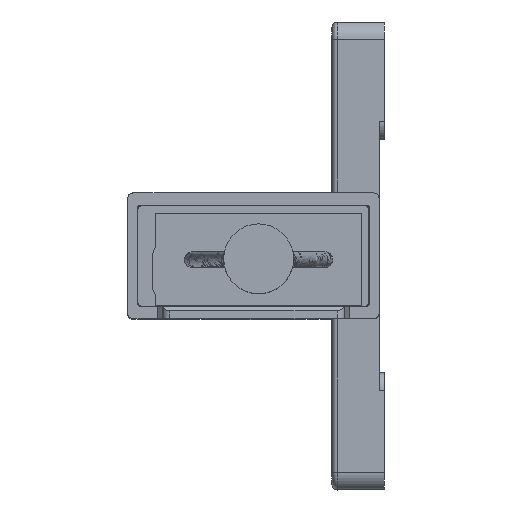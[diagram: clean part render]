
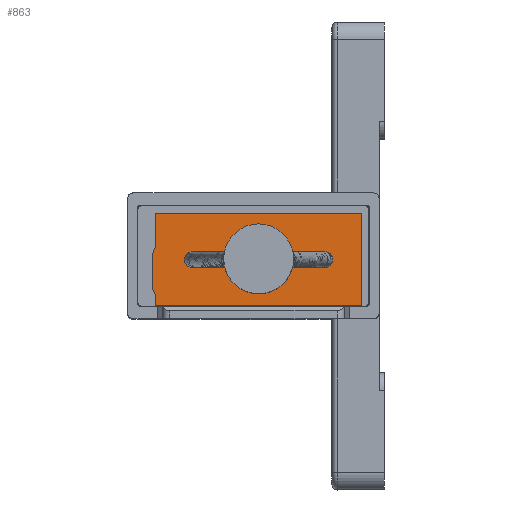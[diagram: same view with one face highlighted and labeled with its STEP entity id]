
A CAD part, top view. The second image highlights one B-rep face of the part: STEP entity #863.
In plain terms, the highlighted planar face has unit normal (0, 0, 1).
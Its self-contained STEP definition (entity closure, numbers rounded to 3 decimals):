
#211=(
BOUNDED_CURVE()
B_SPLINE_CURVE(3,(#16818,#16819,#16820,#16821,#16822,#16823,#16824),
 .UNSPECIFIED.,.T.,.F.)
B_SPLINE_CURVE_WITH_KNOTS((1,3,3,3,1),(-0.5,0.,0.5,1.,1.5),
 .UNSPECIFIED.)
CURVE()
GEOMETRIC_REPRESENTATION_ITEM()
RATIONAL_B_SPLINE_CURVE((1.,0.333,0.333,1.,0.333,
0.333,1.))
REPRESENTATION_ITEM('')
);
#212=(
BOUNDED_CURVE()
B_SPLINE_CURVE(3,(#16844,#16845,#16846,#16847,#16848,#16849,#16850),
 .UNSPECIFIED.,.T.,.F.)
B_SPLINE_CURVE_WITH_KNOTS((1,3,3,3,1),(-0.5,0.,0.5,1.,1.5),
 .UNSPECIFIED.)
CURVE()
GEOMETRIC_REPRESENTATION_ITEM()
RATIONAL_B_SPLINE_CURVE((1.,0.333,0.333,1.,0.333,
0.333,1.))
REPRESENTATION_ITEM('')
);
#213=(
BOUNDED_CURVE()
B_SPLINE_CURVE(3,(#16852,#16853,#16854,#16855,#16856,#16857,#16858),
 .UNSPECIFIED.,.T.,.F.)
B_SPLINE_CURVE_WITH_KNOTS((1,3,3,3,1),(-0.5,0.,0.5,1.,1.5),
 .UNSPECIFIED.)
CURVE()
GEOMETRIC_REPRESENTATION_ITEM()
RATIONAL_B_SPLINE_CURVE((1.,0.333,0.333,1.,0.333,
0.333,1.))
REPRESENTATION_ITEM('')
);
#390=CIRCLE('',#12247,0.45);
#596=FACE_BOUND('',#2564,.T.);
#597=FACE_BOUND('',#2565,.T.);
#598=FACE_BOUND('',#2566,.T.);
#599=FACE_BOUND('',#2567,.T.);
#600=FACE_BOUND('',#2568,.T.);
#863=ADVANCED_FACE('',(#596,#597,#598,#599,#600),#1461,.T.);
#1461=PLANE('',#12248);
#2564=EDGE_LOOP('',(#3963));
#2565=EDGE_LOOP('',(#3964));
#2566=EDGE_LOOP('',(#3965,#3966,#3967,#3968,#3969,#3970,#3971,#3972));
#2567=EDGE_LOOP('',(#3973));
#2568=EDGE_LOOP('',(#3974));
#3963=ORIENTED_EDGE('',*,*,#8025,.F.);
#3964=ORIENTED_EDGE('',*,*,#8026,.F.);
#3965=ORIENTED_EDGE('',*,*,#8027,.F.);
#3966=ORIENTED_EDGE('',*,*,#8028,.F.);
#3967=ORIENTED_EDGE('',*,*,#8029,.F.);
#3968=ORIENTED_EDGE('',*,*,#8030,.F.);
#3969=ORIENTED_EDGE('',*,*,#8031,.F.);
#3970=ORIENTED_EDGE('',*,*,#8032,.F.);
#3971=ORIENTED_EDGE('',*,*,#8033,.F.);
#3972=ORIENTED_EDGE('',*,*,#8034,.F.);
#3973=ORIENTED_EDGE('',*,*,#8035,.F.);
#3974=ORIENTED_EDGE('',*,*,#8036,.F.);
#6749=VERTEX_POINT('',#16825);
#6750=VERTEX_POINT('',#16827);
#6751=VERTEX_POINT('',#16829);
#6752=VERTEX_POINT('',#16830);
#6753=VERTEX_POINT('',#16832);
#6754=VERTEX_POINT('',#16834);
#6755=VERTEX_POINT('',#16836);
#6756=VERTEX_POINT('',#16838);
#6757=VERTEX_POINT('',#16840);
#6758=VERTEX_POINT('',#16842);
#6759=VERTEX_POINT('',#16851);
#6760=VERTEX_POINT('',#16859);
#8025=EDGE_CURVE('',#6749,#6749,#211,.T.);
#8026=EDGE_CURVE('',#6750,#6750,#390,.T.);
#8027=EDGE_CURVE('',#6751,#6752,#9666,.T.);
#8028=EDGE_CURVE('',#6753,#6751,#9667,.T.);
#8029=EDGE_CURVE('',#6754,#6753,#9668,.T.);
#8030=EDGE_CURVE('',#6755,#6754,#9669,.T.);
#8031=EDGE_CURVE('',#6756,#6755,#9670,.T.);
#8032=EDGE_CURVE('',#6757,#6756,#9671,.T.);
#8033=EDGE_CURVE('',#6758,#6757,#9672,.T.);
#8034=EDGE_CURVE('',#6752,#6758,#9673,.T.);
#8035=EDGE_CURVE('',#6759,#6759,#212,.T.);
#8036=EDGE_CURVE('',#6760,#6760,#213,.T.);
#9666=LINE('',#16828,#11041);
#9667=LINE('',#16831,#11042);
#9668=LINE('',#16833,#11043);
#9669=LINE('',#16835,#11044);
#9670=LINE('',#16837,#11045);
#9671=LINE('',#16839,#11046);
#9672=LINE('',#16841,#11047);
#9673=LINE('',#16843,#11048);
#11041=VECTOR('',#13686,1.);
#11042=VECTOR('',#13687,1.);
#11043=VECTOR('',#13688,1.);
#11044=VECTOR('',#13689,1.);
#11045=VECTOR('',#13690,1.);
#11046=VECTOR('',#13691,1.);
#11047=VECTOR('',#13692,1.);
#11048=VECTOR('',#13693,1.);
#12247=AXIS2_PLACEMENT_3D('',#16826,#13684,#13685);
#12248=AXIS2_PLACEMENT_3D('',#16860,#13694,#13695);
#13684=DIRECTION('',(0.,0.,1.));
#13685=DIRECTION('',(0.,1.,0.));
#13686=DIRECTION('',(1.,0.,0.));
#13687=DIRECTION('',(0.,1.,0.));
#13688=DIRECTION('',(0.371,0.928,0.));
#13689=DIRECTION('',(0.,1.,0.));
#13690=DIRECTION('',(-0.371,0.928,0.));
#13691=DIRECTION('',(0.,1.,0.));
#13692=DIRECTION('',(-1.,0.,0.));
#13693=DIRECTION('',(0.,-1.,0.));
#13694=DIRECTION('',(0.,0.,1.));
#13695=DIRECTION('',(0.,1.,0.));
#16818=CARTESIAN_POINT('',(47.3,-10.166,30.434));
#16819=CARTESIAN_POINT('',(46.4,-10.166,30.434));
#16820=CARTESIAN_POINT('',(46.4,-11.066,30.434));
#16821=CARTESIAN_POINT('',(47.3,-11.066,30.434));
#16822=CARTESIAN_POINT('',(48.2,-11.066,30.434));
#16823=CARTESIAN_POINT('',(48.2,-10.166,30.434));
#16824=CARTESIAN_POINT('',(47.3,-10.166,30.434));
#16825=CARTESIAN_POINT('',(47.3,-10.166,30.434));
#16826=CARTESIAN_POINT('',(49.6,-10.616,30.434));
#16827=CARTESIAN_POINT('',(49.6,-10.166,30.434));
#16828=CARTESIAN_POINT('',(51.7,-7.966,30.434));
#16829=CARTESIAN_POINT('',(39.9,-7.966,30.434));
#16830=CARTESIAN_POINT('',(51.7,-7.966,30.434));
#16831=CARTESIAN_POINT('',(39.9,-7.966,30.434));
#16832=CARTESIAN_POINT('',(39.9,-9.866,30.434));
#16833=CARTESIAN_POINT('',(39.7,-10.366,30.434));
#16834=CARTESIAN_POINT('',(39.7,-10.366,30.434));
#16835=CARTESIAN_POINT('',(39.7,-10.366,30.434));
#16836=CARTESIAN_POINT('',(39.7,-12.166,30.434));
#16837=CARTESIAN_POINT('',(39.7,-12.166,30.434));
#16838=CARTESIAN_POINT('',(39.9,-12.666,30.434));
#16839=CARTESIAN_POINT('',(39.9,-12.666,30.434));
#16840=CARTESIAN_POINT('',(39.9,-13.266,30.434));
#16841=CARTESIAN_POINT('',(51.7,-13.266,30.434));
#16842=CARTESIAN_POINT('',(51.7,-13.266,30.434));
#16843=CARTESIAN_POINT('',(51.7,-7.966,30.434));
#16844=CARTESIAN_POINT('',(42.,-10.166,30.434));
#16845=CARTESIAN_POINT('',(41.1,-10.166,30.434));
#16846=CARTESIAN_POINT('',(41.1,-11.066,30.434));
#16847=CARTESIAN_POINT('',(42.,-11.066,30.434));
#16848=CARTESIAN_POINT('',(42.9,-11.066,30.434));
#16849=CARTESIAN_POINT('',(42.9,-10.166,30.434));
#16850=CARTESIAN_POINT('',(42.,-10.166,30.434));
#16851=CARTESIAN_POINT('',(42.,-10.166,30.434));
#16852=CARTESIAN_POINT('',(44.3,-10.166,30.434));
#16853=CARTESIAN_POINT('',(43.4,-10.166,30.434));
#16854=CARTESIAN_POINT('',(43.4,-11.066,30.434));
#16855=CARTESIAN_POINT('',(44.3,-11.066,30.434));
#16856=CARTESIAN_POINT('',(45.2,-11.066,30.434));
#16857=CARTESIAN_POINT('',(45.2,-10.166,30.434));
#16858=CARTESIAN_POINT('',(44.3,-10.166,30.434));
#16859=CARTESIAN_POINT('',(44.3,-10.166,30.434));
#16860=CARTESIAN_POINT('',(51.7,-7.966,30.434));
